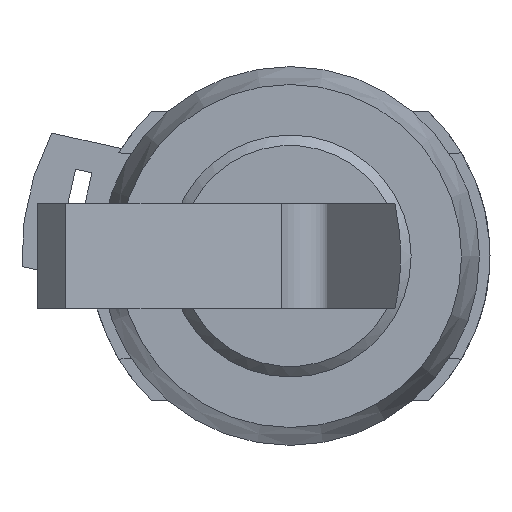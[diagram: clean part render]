
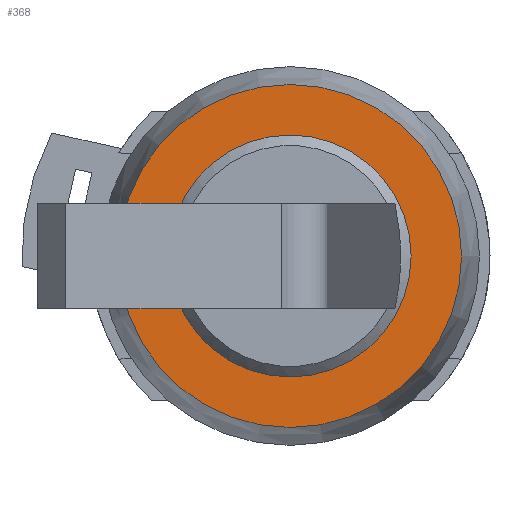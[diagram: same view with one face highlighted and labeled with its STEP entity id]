
A CAD part, left-side view. The second image highlights one B-rep face of the part: STEP entity #368.
In plain terms, the highlighted planar face has unit normal (-1, 0, 0).
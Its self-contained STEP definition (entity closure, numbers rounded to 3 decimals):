
#368 = ADVANCED_FACE ( 'NONE', ( #5747, #5753 ), #7269, .T. ) ;
#812 = EDGE_CURVE ( 'NONE', #12464, #12464, #8468, .T. ) ;
#814 = EDGE_CURVE ( 'NONE', #12468, #12468, #8470, .T. ) ;
#4520 = ORIENTED_EDGE ( 'NONE', *, *, #812, .T. ) ;
#4522 = ORIENTED_EDGE ( 'NONE', *, *, #814, .F. ) ;
#4528 = EDGE_LOOP ( 'NONE', ( #4522 ) ) ;
#4588 = EDGE_LOOP ( 'NONE', ( #4520 ) ) ;
#5747 = FACE_BOUND ( 'NONE', #4588, .T. ) ;
#5753 = FACE_OUTER_BOUND ( 'NONE', #4528, .T. ) ;
#6413 = AXIS2_PLACEMENT_3D ( 'NONE', #7260, #7270, #7271 ) ;
#6631 = AXIS2_PLACEMENT_3D ( 'NONE', #9678, #9685, #9686 ) ;
#6633 = AXIS2_PLACEMENT_3D ( 'NONE', #9684, #9691, #9692 ) ;
#7260 = CARTESIAN_POINT ( 'NONE',  ( 0., 13.9, 0. ) ) ;
#7269 = PLANE ( 'NONE',  #6413 ) ;
#7270 = DIRECTION ( 'NONE',  ( -1., 0., 0. ) ) ;
#7271 = DIRECTION ( 'NONE',  ( 0., -1., 0. ) ) ;
#8468 = CIRCLE ( 'NONE', #6631, 11.5 ) ;
#8470 = CIRCLE ( 'NONE', #6633, 16.3 ) ;
#9678 = CARTESIAN_POINT ( 'NONE',  ( 0., 0., 0. ) ) ;
#9684 = CARTESIAN_POINT ( 'NONE',  ( 0., 0., 0. ) ) ;
#9685 = DIRECTION ( 'NONE',  ( 1., 0., 0. ) ) ;
#9686 = DIRECTION ( 'NONE',  ( 0., 1., 0. ) ) ;
#9691 = DIRECTION ( 'NONE',  ( 1., 0., 0. ) ) ;
#9692 = DIRECTION ( 'NONE',  ( 0., 1., 0. ) ) ;
#12464 = VERTEX_POINT ( 'NONE', #12465 ) ;
#12465 = CARTESIAN_POINT ( 'NONE',  ( 0., 11.5, 0. ) ) ;
#12468 = VERTEX_POINT ( 'NONE', #12469 ) ;
#12469 = CARTESIAN_POINT ( 'NONE',  ( 0., 16.3, 0. ) ) ;
